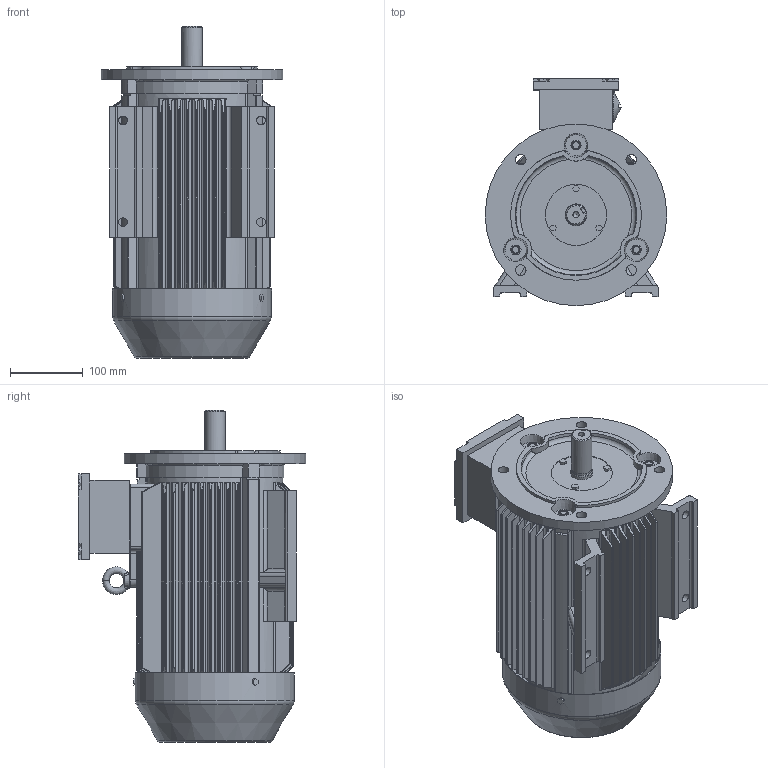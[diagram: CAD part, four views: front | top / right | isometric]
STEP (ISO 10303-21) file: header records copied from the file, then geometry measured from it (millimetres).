
FILE_DESCRIPTION(/* description */ (''),/* implementation_level */ '2;1');
FILE_NAME(/* name */ 'C:/Users/luigi_zhang/Desktop/temp/TE3-112M B35╔╧.step',/* time_stamp */ '2020-07-01T16:09:59+10:00',/* author */ (''),/* organization */ (''),/* preprocessor_version */ 'ST-DEVELOPER v18.1',/* originating_system */ 'Autodesk Translation Framework v9.3.0.1241',/* authorisation */ '');
FILE_SCHEMA (('AUTOMOTIVE_DESIGN { 1 0 10303 214 3 1 1 }'));
Length unit declared in the file: millimetre
Products named in the file (7): (Unsaved); TE3-112M»ú×ù B3ÉÏ; YX3-112 ·çÕÖ; TE3-112 Í¹Ôµ¶Ë¸Ç£¨
B5,B35£©; YE3-112MÖá£¨ÖáÉì£©; eyebolts gb_GB_FASTENER_SCREWS_FRS M8-N; hex head bolts-reduced shank grade b gb_GB_FASTENER_BOLT_HHBB M8X50-N
Assembly tree (8 placements, depth 2):
  (Unsaved)
    TE3-112M»ú×ù B3ÉÏ
    YX3-112 ·çÕÖ
    TE3-112 Í¹Ôµ¶Ë¸Ç£¨
B5,B35£©
    hex head bolts-reduced shank grade b gb_GB_FASTENER_BOLT_HHBB M8X50-N  x3
    YE3-112MÖá£¨ÖáÉì£©
    eyebolts gb_GB_FASTENER_SCREWS_FRS M8-N
Bounding box: 250 x 313 x 457 mm (x, y, z)
Volume: 4478588.4 mm3; surface area: 1090971.4 mm2
Topology: 8 solids, 8 shells, 1441 faces, 3829 edges, 2534 vertices
Faces by surface type: plane 739, cylinder 586, cone 69, bspline 25, torus 22
Full cylindrical faces by diameter (mm): 6 x1, 7.188 x3, 8 x8, 8.5 x1, 9.2 x3, 10 x3, 12 x4, 14.5 x4, 27.5 x1, 28 x1, 29.5 x1, 30 x2, 38 x1, 84 x1, 175 x1, 178 x1, 217 x1, 219 x1, 250 x1
Entity records: 50092 total; most frequent: CARTESIAN_POINT 14748, ORIENTED_EDGE 7528, DIRECTION 7114, EDGE_CURVE 3764, VERTEX_POINT 2492, AXIS2_PLACEMENT_3D 2465, LINE 2184, VECTOR 2184
